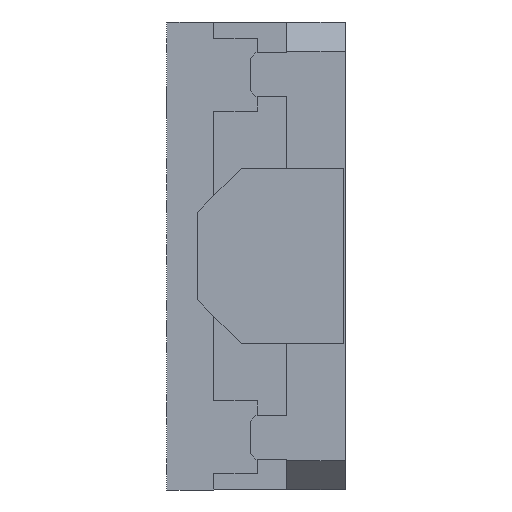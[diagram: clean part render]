
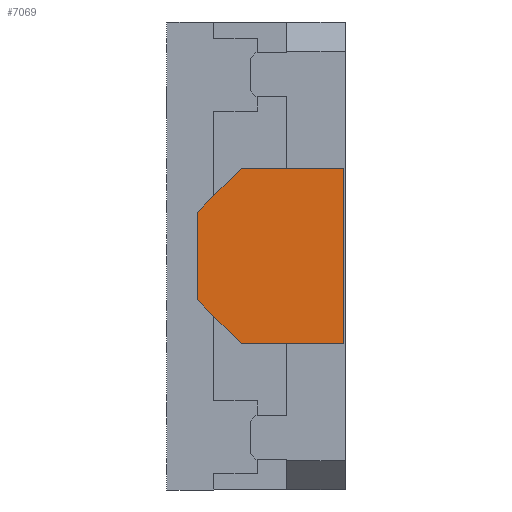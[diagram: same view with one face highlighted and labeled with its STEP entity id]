
A CAD part, left-side view. The second image highlights one B-rep face of the part: STEP entity #7069.
In plain terms, the highlighted planar face has unit normal (-1, 0, 0).
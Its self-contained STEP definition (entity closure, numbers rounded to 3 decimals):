
#303 = LINE ( 'NONE', #10345, #3851 ) ;
#856 = CARTESIAN_POINT ( 'NONE',  ( -294.22, 0., 0. ) ) ;
#1185 = CARTESIAN_POINT ( 'NONE',  ( -294.22, 312.454, 452.721 ) ) ;
#1816 = CARTESIAN_POINT ( 'NONE',  ( -294.22, 312.454, 392.721 ) ) ;
#2229 = DIRECTION ( 'NONE',  ( 0., -0.707, -0.707 ) ) ;
#2324 = DIRECTION ( 'NONE',  ( 0., 1., 0. ) ) ;
#2556 = CARTESIAN_POINT ( 'NONE',  ( -294.22, 362.454, 452.721 ) ) ;
#2912 = VECTOR ( 'NONE', #2324, 1000. ) ;
#3455 = LINE ( 'NONE', #10229, #8678 ) ;
#3531 = DIRECTION ( 'NONE',  ( -1., 0., 0. ) ) ;
#3851 = VECTOR ( 'NONE', #4853, 1000. ) ;
#4030 = EDGE_CURVE ( 'NONE', #5340, #5688, #3455, .T. ) ;
#4789 = ORIENTED_EDGE ( 'NONE', *, *, #8960, .T. ) ;
#4853 = DIRECTION ( 'NONE',  ( 0., 0., -1. ) ) ;
#5136 = VECTOR ( 'NONE', #7699, 1000. ) ;
#5340 = VERTEX_POINT ( 'NONE', #9504 ) ;
#5468 = VERTEX_POINT ( 'NONE', #15099 ) ;
#5557 = LINE ( 'NONE', #13077, #5136 ) ;
#5688 = VERTEX_POINT ( 'NONE', #10295 ) ;
#6010 = VERTEX_POINT ( 'NONE', #1816 ) ;
#6166 = PLANE ( 'NONE',  #9166 ) ;
#6338 = ORIENTED_EDGE ( 'NONE', *, *, #7945, .T. ) ;
#7069 = ADVANCED_FACE ( 'NONE', ( #11475 ), #6166, .T. ) ;
#7443 = CARTESIAN_POINT ( 'NONE',  ( -294.22, 362.454, 437.721 ) ) ;
#7699 = DIRECTION ( 'NONE',  ( 0., -1., 0. ) ) ;
#7945 = EDGE_CURVE ( 'NONE', #5688, #6010, #5557, .T. ) ;
#8678 = VECTOR ( 'NONE', #2229, 1000. ) ;
#8689 = VECTOR ( 'NONE', #16023, 1000. ) ;
#8867 = VERTEX_POINT ( 'NONE', #7443 ) ;
#8902 = ORIENTED_EDGE ( 'NONE', *, *, #11082, .T. ) ;
#8960 = EDGE_CURVE ( 'NONE', #8867, #5340, #303, .T. ) ;
#9068 = ORIENTED_EDGE ( 'NONE', *, *, #12081, .T. ) ;
#9166 = AXIS2_PLACEMENT_3D ( 'NONE', #856, #3531, #14001 ) ;
#9504 = CARTESIAN_POINT ( 'NONE',  ( -294.22, 362.454, 407.721 ) ) ;
#9878 = DIRECTION ( 'NONE',  ( 0., 0.707, -0.707 ) ) ;
#10229 = CARTESIAN_POINT ( 'NONE',  ( -294.22, -22.633, 22.633 ) ) ;
#10295 = CARTESIAN_POINT ( 'NONE',  ( -294.22, 347.454, 392.721 ) ) ;
#10345 = CARTESIAN_POINT ( 'NONE',  ( -294.22, 362.454, 392.721 ) ) ;
#10924 = ORIENTED_EDGE ( 'NONE', *, *, #4030, .T. ) ;
#11082 = EDGE_CURVE ( 'NONE', #5468, #8867, #13737, .T. ) ;
#11221 = ORIENTED_EDGE ( 'NONE', *, *, #13139, .T. ) ;
#11397 = VERTEX_POINT ( 'NONE', #1185 ) ;
#11475 = FACE_OUTER_BOUND ( 'NONE', #11514, .T. ) ;
#11514 = EDGE_LOOP ( 'NONE', ( #4789, #10924, #6338, #11221, #9068, #8902 ) ) ;
#12081 = EDGE_CURVE ( 'NONE', #11397, #5468, #12953, .T. ) ;
#12953 = LINE ( 'NONE', #2556, #2912 ) ;
#13077 = CARTESIAN_POINT ( 'NONE',  ( -294.22, 362.454, 392.721 ) ) ;
#13139 = EDGE_CURVE ( 'NONE', #6010, #11397, #16018, .T. ) ;
#13737 = LINE ( 'NONE', #16658, #17124 ) ;
#14001 = DIRECTION ( 'NONE',  ( 0., 0., 1. ) ) ;
#15099 = CARTESIAN_POINT ( 'NONE',  ( -294.22, 347.454, 452.721 ) ) ;
#16018 = LINE ( 'NONE', #17334, #8689 ) ;
#16023 = DIRECTION ( 'NONE',  ( 0., 0., 1. ) ) ;
#16658 = CARTESIAN_POINT ( 'NONE',  ( -294.22, 400.088, 400.088 ) ) ;
#17124 = VECTOR ( 'NONE', #9878, 1000. ) ;
#17334 = CARTESIAN_POINT ( 'NONE',  ( -294.22, 312.454, 392.721 ) ) ;
